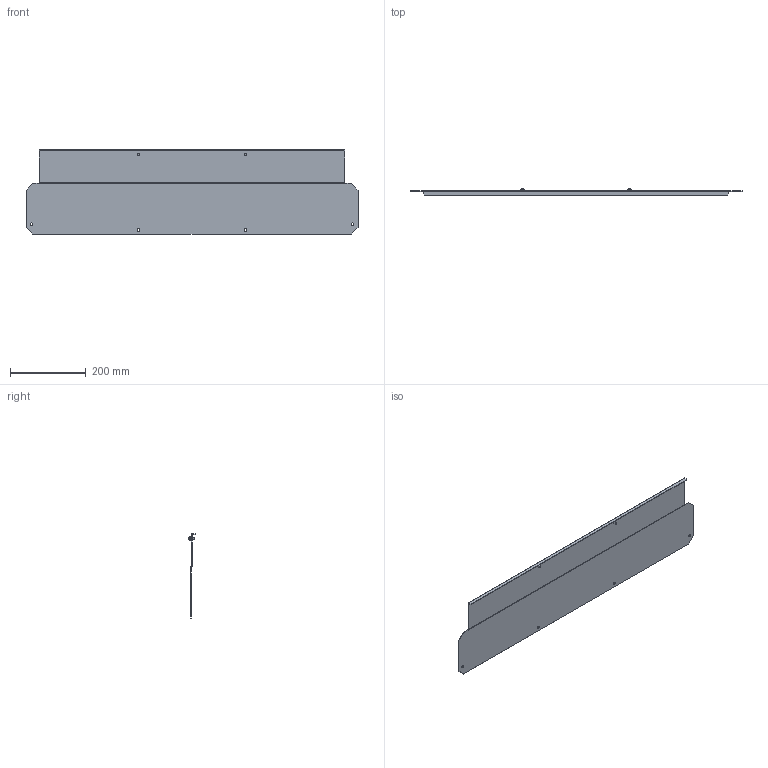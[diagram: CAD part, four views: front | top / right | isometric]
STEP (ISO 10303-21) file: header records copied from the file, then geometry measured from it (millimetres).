
FILE_DESCRIPTION (( 'STEP AP214' ), '1' );
FILE_NAME ('FO-00-FBCS-020-100 Ôëàíåö îñíîâàíèÿ âñòðîåííîãî îòñåêà ñïëîøíîé 200õ1000 ìì.STEP', '2025-08-04T12:28:49', ( '' ), ( '' ), 'SwSTEP 2.0', 'SolidWorks 2023', '' );
FILE_SCHEMA (( 'AUTOMOTIVE_DESIGN' ));
Length unit declared in the file: millimetre
Products named in the file (1): FO-00-FBCS-020-100 Фланец основания встроенного отсека сплошной 200х1000 мм
Bounding box: 879 x 16 x 222.5 mm (x, y, z)
Volume: 294707.2 mm3; surface area: 395579.5 mm2
Topology: 1 solids, 1 shells, 106 faces, 272 edges, 176 vertices
Faces by surface type: cylinder 50, plane 40, cone 8, torus 8
Entity records: 3291 total; most frequent: DIRECTION 610, CARTESIAN_POINT 555, ORIENTED_EDGE 544, EDGE_CURVE 272, AXIS2_PLACEMENT_3D 231, VERTEX_POINT 176, LINE 148, VECTOR 148
